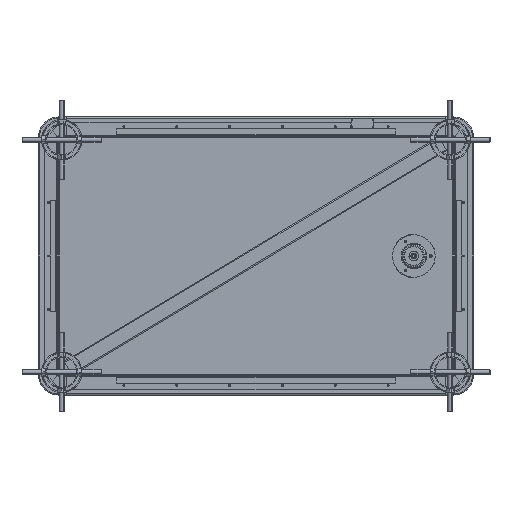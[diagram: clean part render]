
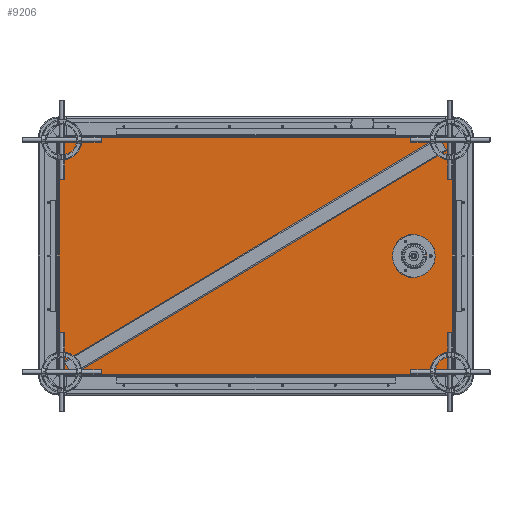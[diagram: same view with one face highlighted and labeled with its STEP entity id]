
A CAD part, front view. The second image highlights one B-rep face of the part: STEP entity #9206.
In plain terms, the highlighted planar face has unit normal (-0.018, -1, 0).
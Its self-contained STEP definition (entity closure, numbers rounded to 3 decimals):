
#107 = EDGE_CURVE ( 'NONE', #4850, #42935, #39450, .T. ) ;
#405 = CARTESIAN_POINT ( 'NONE',  ( 499.5, -72.438, -298. ) ) ;
#453 = DIRECTION ( 'NONE',  ( 0., 0., -1. ) ) ;
#610 = CARTESIAN_POINT ( 'NONE',  ( 367.199, -70.128, 0. ) ) ;
#666 = EDGE_CURVE ( 'NONE', #41211, #37430, #32726, .T. ) ;
#1235 = EDGE_CURVE ( 'NONE', #17550, #9551, #53144, .T. ) ;
#2069 = ORIENTED_EDGE ( 'NONE', *, *, #1235, .T. ) ;
#2150 = AXIS2_PLACEMENT_3D ( 'NONE', #37328, #41586, #8139 ) ;
#3182 = EDGE_CURVE ( 'NONE', #45228, #26780, #50949, .T. ) ;
#3354 = EDGE_LOOP ( 'NONE', ( #2069, #8625 ) ) ;
#3549 = AXIS2_PLACEMENT_3D ( 'NONE', #35255, #43763, #39324 ) ;
#3559 = VECTOR ( 'NONE', #51287, 1000. ) ;
#3693 = ORIENTED_EDGE ( 'NONE', *, *, #28088, .T. ) ;
#4850 = VERTEX_POINT ( 'NONE', #33290 ) ;
#5634 = CARTESIAN_POINT ( 'NONE',  ( -495.57, -55.069, -298. ) ) ;
#6970 = CARTESIAN_POINT ( 'NONE',  ( 427.69, -71.184, 0. ) ) ;
#7101 = FACE_OUTER_BOUND ( 'NONE', #34297, .T. ) ;
#7129 = DIRECTION ( 'NONE',  ( -1., 0.017, 0. ) ) ;
#8042 = LINE ( 'NONE', #9605, #27697 ) ;
#8139 = DIRECTION ( 'NONE',  ( -1., 0.017, 0. ) ) ;
#8625 = ORIENTED_EDGE ( 'NONE', *, *, #45882, .T. ) ;
#9036 = ORIENTED_EDGE ( 'NONE', *, *, #22840, .T. ) ;
#9206 = ADVANCED_FACE ( 'NONE', ( #47833, #39270, #20828, #35296, #7101 ), #21603, .F. ) ;
#9407 = AXIS2_PLACEMENT_3D ( 'NONE', #22152, #31721, #19041 ) ;
#9551 = VERTEX_POINT ( 'NONE', #6970 ) ;
#9605 = CARTESIAN_POINT ( 'NONE',  ( -495.57, -55.069, 298. ) ) ;
#9917 = CARTESIAN_POINT ( 'NONE',  ( 495.43, -72.367, -298. ) ) ;
#10085 = DIRECTION ( 'NONE',  ( 0.017, 1., 0. ) ) ;
#10500 = CARTESIAN_POINT ( 'NONE',  ( 376.198, -70.285, 36.806 ) ) ;
#11600 = CIRCLE ( 'NONE', #32854, 2.45 ) ;
#12299 = CARTESIAN_POINT ( 'NONE',  ( 495.43, -72.367, 298. ) ) ;
#12972 = LINE ( 'NONE', #37347, #43910 ) ;
#13591 = LINE ( 'NONE', #28650, #51082 ) ;
#14164 = CARTESIAN_POINT ( 'NONE',  ( 376.198, -70.285, -36.806 ) ) ;
#14471 = AXIS2_PLACEMENT_3D ( 'NONE', #29745, #51065, #29566 ) ;
#15032 = ORIENTED_EDGE ( 'NONE', *, *, #47512, .F. ) ;
#16373 = ORIENTED_EDGE ( 'NONE', *, *, #24358, .T. ) ;
#17550 = VERTEX_POINT ( 'NONE', #610 ) ;
#19041 = DIRECTION ( 'NONE',  ( -1., 0.017, 0. ) ) ;
#19061 = AXIS2_PLACEMENT_3D ( 'NONE', #35413, #35785, #40039 ) ;
#20311 = VERTEX_POINT ( 'NONE', #50016 ) ;
#20376 = DIRECTION ( 'NONE',  ( -1., 0.017, 0. ) ) ;
#20828 = FACE_BOUND ( 'NONE', #32004, .T. ) ;
#21603 = PLANE ( 'NONE',  #14471 ) ;
#22152 = CARTESIAN_POINT ( 'NONE',  ( 376.198, -70.285, 36.806 ) ) ;
#22732 = DIRECTION ( 'NONE',  ( -1., 0.017, 0. ) ) ;
#22840 = EDGE_CURVE ( 'NONE', #36029, #39496, #39707, .T. ) ;
#23325 = DIRECTION ( 'NONE',  ( 0.017, 1., 0. ) ) ;
#24358 = EDGE_CURVE ( 'NONE', #42935, #4850, #11600, .T. ) ;
#24417 = ORIENTED_EDGE ( 'NONE', *, *, #666, .T. ) ;
#24848 = CARTESIAN_POINT ( 'NONE',  ( 437.489, -71.355, 0. ) ) ;
#26769 = EDGE_CURVE ( 'NONE', #26780, #45228, #45274, .T. ) ;
#26780 = VERTEX_POINT ( 'NONE', #39504 ) ;
#27293 = CIRCLE ( 'NONE', #19061, 2.45 ) ;
#27697 = VECTOR ( 'NONE', #453, 1000. ) ;
#28088 = EDGE_CURVE ( 'NONE', #37430, #41211, #27293, .T. ) ;
#28383 = ORIENTED_EDGE ( 'NONE', *, *, #107, .T. ) ;
#28650 = CARTESIAN_POINT ( 'NONE',  ( 495.43, -72.367, 298. ) ) ;
#29566 = DIRECTION ( 'NONE',  ( -1., 0.017, 0. ) ) ;
#29745 = CARTESIAN_POINT ( 'NONE',  ( 499.5, -72.438, 298. ) ) ;
#30486 = ORIENTED_EDGE ( 'NONE', *, *, #51226, .T. ) ;
#31044 = VERTEX_POINT ( 'NONE', #12299 ) ;
#31624 = DIRECTION ( 'NONE',  ( -1., 0.017, 0. ) ) ;
#31721 = DIRECTION ( 'NONE',  ( 0.017, 1., 0. ) ) ;
#31759 = CARTESIAN_POINT ( 'NONE',  ( 376.198, -70.285, -36.806 ) ) ;
#32004 = EDGE_LOOP ( 'NONE', ( #24417, #3693 ) ) ;
#32726 = CIRCLE ( 'NONE', #52053, 2.45 ) ;
#32802 = AXIS2_PLACEMENT_3D ( 'NONE', #31759, #48707, #20376 ) ;
#32854 = AXIS2_PLACEMENT_3D ( 'NONE', #10500, #23325, #31624 ) ;
#33290 = CARTESIAN_POINT ( 'NONE',  ( 373.748, -70.243, 36.806 ) ) ;
#33775 = EDGE_LOOP ( 'NONE', ( #39811, #45661 ) ) ;
#34297 = EDGE_LOOP ( 'NONE', ( #9036, #15032, #39420, #30486 ) ) ;
#34936 = EDGE_LOOP ( 'NONE', ( #28383, #16373 ) ) ;
#35255 = CARTESIAN_POINT ( 'NONE',  ( 397.445, -70.656, 0. ) ) ;
#35296 = FACE_BOUND ( 'NONE', #3354, .T. ) ;
#35339 = EDGE_CURVE ( 'NONE', #20311, #31044, #12972, .T. ) ;
#35413 = CARTESIAN_POINT ( 'NONE',  ( 439.938, -71.398, 0. ) ) ;
#35785 = DIRECTION ( 'NONE',  ( 0.017, 1., 0. ) ) ;
#36029 = VERTEX_POINT ( 'NONE', #5634 ) ;
#36106 = CARTESIAN_POINT ( 'NONE',  ( 439.938, -71.398, 0. ) ) ;
#36476 = DIRECTION ( 'NONE',  ( 0.017, 1., 0. ) ) ;
#37328 = CARTESIAN_POINT ( 'NONE',  ( 397.445, -70.656, 0. ) ) ;
#37347 = CARTESIAN_POINT ( 'NONE',  ( 499.5, -72.438, 298. ) ) ;
#37430 = VERTEX_POINT ( 'NONE', #41491 ) ;
#38602 = DIRECTION ( 'NONE',  ( 1., -0.017, 0. ) ) ;
#39270 = FACE_BOUND ( 'NONE', #33775, .T. ) ;
#39324 = DIRECTION ( 'NONE',  ( -1., 0.017, 0. ) ) ;
#39420 = ORIENTED_EDGE ( 'NONE', *, *, #35339, .F. ) ;
#39450 = CIRCLE ( 'NONE', #9407, 2.45 ) ;
#39496 = VERTEX_POINT ( 'NONE', #9917 ) ;
#39504 = CARTESIAN_POINT ( 'NONE',  ( 373.748, -70.243, -36.806 ) ) ;
#39707 = LINE ( 'NONE', #405, #3559 ) ;
#39811 = ORIENTED_EDGE ( 'NONE', *, *, #26769, .T. ) ;
#40039 = DIRECTION ( 'NONE',  ( -1., 0.017, 0. ) ) ;
#40775 = CARTESIAN_POINT ( 'NONE',  ( 378.648, -70.328, -36.806 ) ) ;
#41211 = VERTEX_POINT ( 'NONE', #24848 ) ;
#41491 = CARTESIAN_POINT ( 'NONE',  ( 442.388, -71.441, 0. ) ) ;
#41524 = DIRECTION ( 'NONE',  ( 0., 0., -1. ) ) ;
#41586 = DIRECTION ( 'NONE',  ( 0.017, 1., 0. ) ) ;
#42935 = VERTEX_POINT ( 'NONE', #44933 ) ;
#43763 = DIRECTION ( 'NONE',  ( 0.017, 1., 0. ) ) ;
#43910 = VECTOR ( 'NONE', #38602, 1000. ) ;
#44933 = CARTESIAN_POINT ( 'NONE',  ( 378.648, -70.328, 36.806 ) ) ;
#45228 = VERTEX_POINT ( 'NONE', #40775 ) ;
#45274 = CIRCLE ( 'NONE', #50296, 2.45 ) ;
#45661 = ORIENTED_EDGE ( 'NONE', *, *, #3182, .T. ) ;
#45882 = EDGE_CURVE ( 'NONE', #9551, #17550, #51654, .T. ) ;
#47512 = EDGE_CURVE ( 'NONE', #31044, #39496, #13591, .T. ) ;
#47833 = FACE_BOUND ( 'NONE', #34936, .T. ) ;
#48707 = DIRECTION ( 'NONE',  ( 0.017, 1., 0. ) ) ;
#50016 = CARTESIAN_POINT ( 'NONE',  ( -495.57, -55.069, 298. ) ) ;
#50296 = AXIS2_PLACEMENT_3D ( 'NONE', #14164, #10085, #22732 ) ;
#50949 = CIRCLE ( 'NONE', #32802, 2.45 ) ;
#51065 = DIRECTION ( 'NONE',  ( 0.017, 1., 0. ) ) ;
#51082 = VECTOR ( 'NONE', #41524, 1000. ) ;
#51226 = EDGE_CURVE ( 'NONE', #20311, #36029, #8042, .T. ) ;
#51287 = DIRECTION ( 'NONE',  ( 1., -0.017, 0. ) ) ;
#51654 = CIRCLE ( 'NONE', #2150, 30.25 ) ;
#52053 = AXIS2_PLACEMENT_3D ( 'NONE', #36106, #36476, #7129 ) ;
#53144 = CIRCLE ( 'NONE', #3549, 30.25 ) ;
